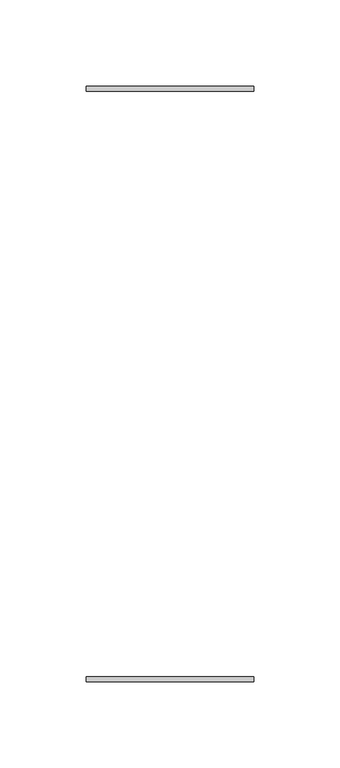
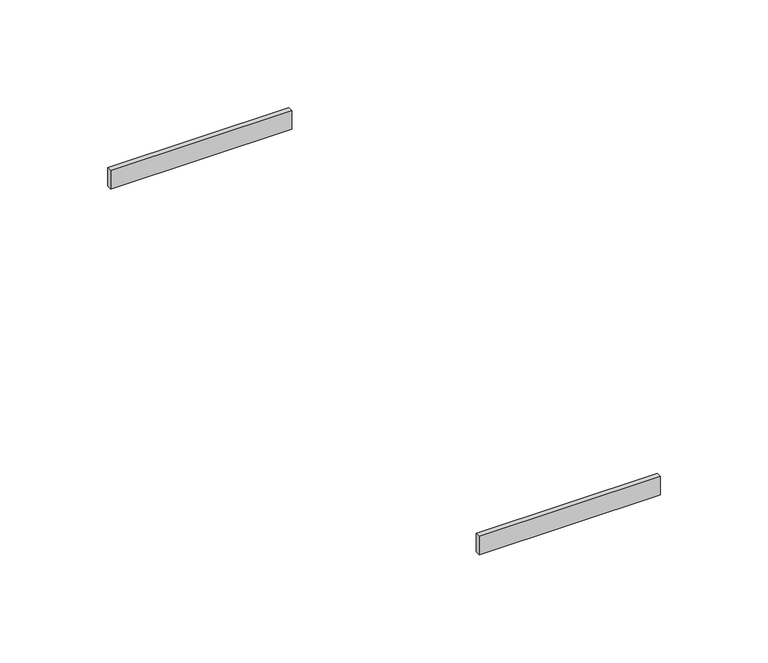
"""IFC4 building model written with IfcOpenShell, lengths in millimetres: cable carrier fitting geometry, Electrical_Installation_Hager_Trunking-Connector : Electrical_Installation_Hager_Trunking-Connector."""

from ifc_helpers import new_model, si_unit, frame, origin, place, context, project, spatial, polyline, outline, extrude, source, transform, mapped, element, save


def cable_carrier_fitting_f198d34f(model_context):
    return source(origin(), model_context, "Body", "SweptSolid", [
        extrude(outline(polyline([(48.4677977, -169.5), (48.4677977, -172.5), (-48.4677977, -172.5), (-48.4677977, -169.5), (48.4677977, -169.5)])), frame((0.0, 0.0, -1.5), z_axis=(0.0, 0.0, 1.0), x_axis=(1.0, 0.0, 0.0)), (0.0, 0.0, 1.0), 10.5),
        extrude(outline(polyline([(48.4677977, 172.5), (48.4677977, 169.5), (-48.4677977, 169.5), (-48.4677977, 172.5), (48.4677977, 172.5)])), frame((0.0, 0.0, -1.5), z_axis=(0.0, 0.0, 1.0), x_axis=(1.0, 0.0, 0.0)), (0.0, 0.0, 1.0), 10.5),
    ])


if __name__ == "__main__":
    model = new_model("IFC4")
    model_context = context("Model", 3, world=origin())
    ifc_project = project(units=[si_unit("LENGTHUNIT", "METRE", prefix="MILLI")], contexts=[model_context])
    site = spatial("IfcSite", under=ifc_project)
    building = spatial("IfcBuilding", under=site)
    placement = place(None, origin())
    cable_carrier_fitting_shape = cable_carrier_fitting_f198d34f(model_context)
    element("IfcCableCarrierFitting", 1, ObjectType="Electrical_Installation_Hager_Trunking-Connector : Electrical_Installation_Hager_Trunking-Connector", at=placement, inside=building, context=model_context, shape_type="MappedRepresentation", body=[
        mapped(cable_carrier_fitting_shape, transform((0.0, 0.0, 0.0), x_axis=(1.0, 0.0, 0.0), y_axis=(0.0, 1.0, 0.0), z_axis=(0.0, 0.0, 1.0))),
    ])
    save(model, "model.ifc")
